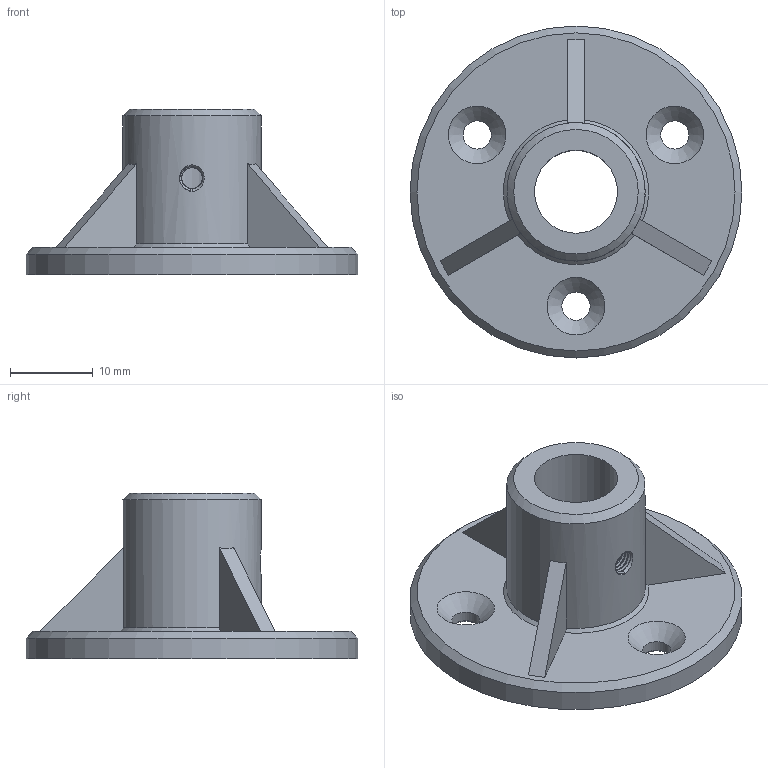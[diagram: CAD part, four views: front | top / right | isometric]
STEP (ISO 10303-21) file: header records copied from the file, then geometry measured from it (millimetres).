
FILE_DESCRIPTION(/* description */ (''),/* implementation_level */ '2;1');
FILE_NAME(/* name */ '10MM_M3.stp',/* time_stamp */ '2024-11-18T16:27:02+01:00',/* author */ (''),/* organization */ (''),/* preprocessor_version */ 'ST-DEVELOPER v20',/* originating_system */ 'SIEMENS PLM Software NX2406.4001',/* authorisation */ '');
FILE_SCHEMA (('AUTOMOTIVE_DESIGN { 1 0 10303 214 3 1 1 1 }'));
Length unit declared in the file: millimetre
Products named in the file (1): 10MM_M3
Bounding box: 40 x 40 x 20 mm (x, y, z)
Volume: 6318.3 mm3; surface area: 4499.9 mm2
Topology: 1 solids, 1 shells, 36 faces, 91 edges, 58 vertices
Faces by surface type: plane 13, cone 13, cylinder 8, bspline 2
Full cylindrical faces by diameter (mm): 3.4 x3, 10 x1, 16.667 x1, 40 x1
Entity records: 3253 total; most frequent: CARTESIAN_POINT 2432, DIRECTION 159, ORIENTED_EDGE 146, EDGE_CURVE 73, AXIS2_PLACEMENT_3D 68, EDGE_LOOP 62, VERTEX_POINT 55, FACE_BOUND 44
